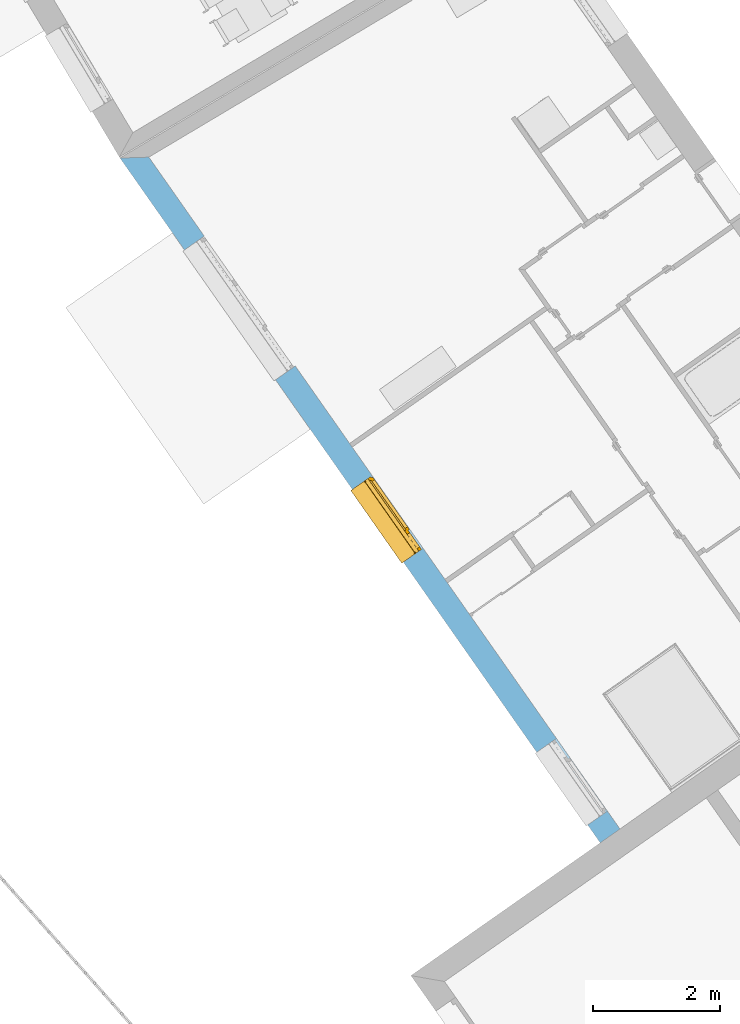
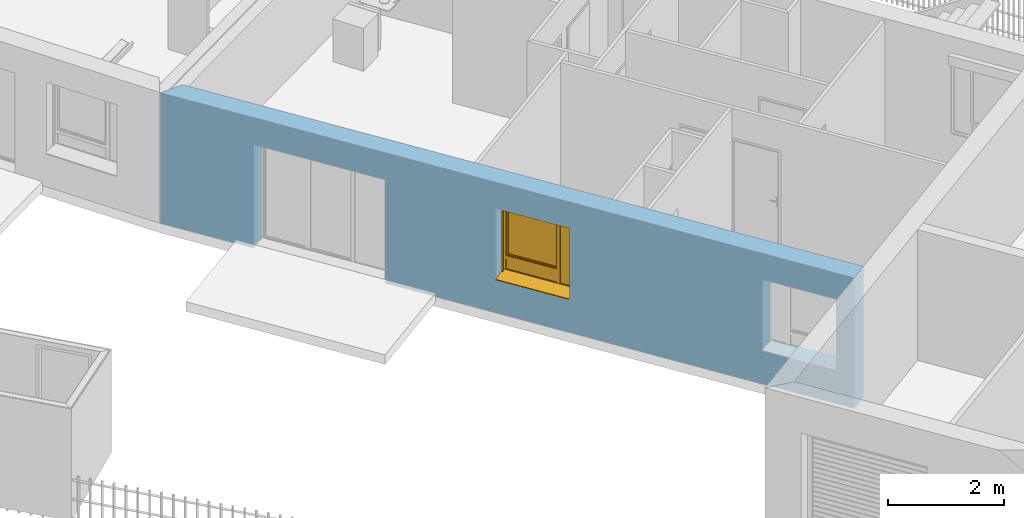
# One storey, part 29 of 195: 1 window, 3 openings, plus 1 element that does not belong to this part.
"""IFC2X3 building model written with IfcOpenShell, lengths in metres."""

from ifc_helpers import new_model, entity, si_unit, converted_unit, derived_unit, money_unit, direction, frame, origin_with_axes, place, context, subcontext, project, spatial, polyline, outline, extrude, open_shell, faceted_brep, surface_model, source, transform, mapped, material, layer, layer_set, layer_usage, type_object, element, fill, save


model = new_model("IFC2X3")

# Units and contexts
model_context = context("Model", 3, precision=1e-05, world=origin_with_axes(), true_north=direction((0.0, 1.0)))
body_context = subcontext(model_context, "Body", "Model", "MODEL_VIEW")
ifc_project = project(units=[si_unit("LENGTHUNIT", "METRE"), si_unit("AREAUNIT", "SQUARE_METRE"), si_unit("VOLUMEUNIT", "CUBIC_METRE"), converted_unit("PLANEANGLEUNIT", "DEGREE", entity("IfcPlaneAngleMeasure", 0.0174532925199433), si_unit("PLANEANGLEUNIT", "RADIAN"), dimensions=[0, 0, 0, 0, 0, 0, 0]), money_unit("CHF"), converted_unit("TIMEUNIT", "Year", entity("IfcTimeMeasure", 31557600.0), si_unit("TIMEUNIT", "SECOND"), dimensions=[0, 0, 1, 0, 0, 0, 0]), si_unit("MASSUNIT", "GRAM", prefix="KILO"), si_unit("THERMODYNAMICTEMPERATUREUNIT", "DEGREE_CELSIUS"), si_unit("LUMINOUSINTENSITYUNIT", "LUMEN"), si_unit("ENERGYUNIT", "JOULE", prefix="MEGA"), derived_unit("THERMALCONDUCTANCEUNIT", [(si_unit("POWERUNIT", "WATT"), 1), (si_unit("LENGTHUNIT", "METRE"), -1), (si_unit("THERMODYNAMICTEMPERATUREUNIT", "KELVIN"), -1)]), derived_unit("SPECIFICHEATCAPACITYUNIT", [(si_unit("ENERGYUNIT", "JOULE"), 1), (si_unit("MASSUNIT", "GRAM", prefix="KILO"), -1), (si_unit("THERMODYNAMICTEMPERATUREUNIT", "KELVIN"), -1)]), derived_unit("MASSDENSITYUNIT", [(si_unit("MASSUNIT", "GRAM", prefix="KILO"), 1), (si_unit("VOLUMEUNIT", "CUBIC_METRE"), -1)])], contexts=[model_context])

# Site, building, storey
site_placement = place(None, origin_with_axes())
site = spatial("IfcSite", under=ifc_project, at=site_placement, Name="Site", CompositionType="ELEMENT")
building_placement = place(site_placement, origin_with_axes())
building = spatial("IfcBuilding", under=site, at=building_placement, Name="Bâtiment", CompositionType="ELEMENT")
storey_placement = place(building_placement, origin_with_axes())
storey = spatial("IfcBuildingStorey", under=building, at=storey_placement, Name="rdc", CompositionType="ELEMENT", Elevation=0.0)

# Wall, openings, window
ifc_material_1 = material(Name="Parpaing 312445824")
ifc_layer_1 = layer(ifc_material_1, 0.22, ventilated="UNKNOWN")
ifc_material_2 = material(Name="Isolant styromousse 301821074")
ifc_layer_2 = layer(ifc_material_2, 0.16, ventilated="UNKNOWN")
ifc_layer_set = layer_set([ifc_layer_1, ifc_layer_2], Name="isol int 22+16 0836643197")
ifc_layer_usage = layer_usage(ifc_layer_set, "AXIS2", "NEGATIVE", 0.0)
wall_type = type_object("IfcWallType", Name="isol int 22+16 0836643197 380", PredefinedType="NOTDEFINED")
wall_placement = place(storey_placement, frame((9550.793347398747, -1066.018324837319, 57.7), z_axis=(0.0, 0.0, 1.0), x_axis=(-0.5741598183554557, 0.8187432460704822, 0.0)))
wall = element("IfcWallStandardCase", 1, at=wall_placement, inside=storey, type_object=wall_type, material=ifc_layer_usage, Name="Mur-113", context=body_context, shape_type="SweptSolid", body=[
    extrude(outline(polyline([(0.0, -0.3799999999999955), (12.93611826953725, -0.3799999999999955), (13.184998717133, 0.0), (0.0, 0.0), (0.0, -0.3799999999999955)])), origin_with_axes(), (0.0, 0.0, 1.0), 2.75),
])
opening_1_placement = place(wall_placement, frame((1.044025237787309, 0.0, 0.7000000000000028), z_axis=(0.0, 0.0, 1.0), x_axis=(1.0, 0.0, 0.0)))
element("IfcOpeningElement", 2, at=opening_1_placement, cuts=wall, Name="Fen-045", context=body_context, shape_type="Brep", body=[
    faceted_brep([(0.7000000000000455, -0.4800000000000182, 1.5), (-0.6999999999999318, -0.4799999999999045, 1.5), (-0.6999999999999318, -6.579129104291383, 1.5), (0.7000000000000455, -6.579129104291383, 1.5), (0.7000000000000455, -0.4800000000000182, 1.700000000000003), (-0.6999999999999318, -0.4799999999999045, 1.700000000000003), (-0.6999999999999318, -0.3000000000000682, 1.5), (-0.6999999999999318, -0.3000000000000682, 0.0), (-0.6999999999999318, -6.579129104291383, 0.0), (0.7000000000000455, -6.579129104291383, 0.0), (0.7000000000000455, -0.3000000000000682, 1.5), (0.7000000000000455, -0.3000000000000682, 0.0), (0.7000000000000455, -0.2200000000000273, 1.5), (0.7000000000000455, -0.2200000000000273, 1.700000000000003), (-0.7000000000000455, -0.2200000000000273, 1.700000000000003), (-0.7000000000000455, -0.2200000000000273, 1.5), (-0.6999999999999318, 6.199129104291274, 1.5), (-0.6999999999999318, 6.199129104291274, 0.0), (0.7000000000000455, 6.199129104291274, 0.0), (0.7000000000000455, 6.199129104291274, 1.5)], [[[0, 1, 2, 3]], [[1, 0, 4, 5]], [[1, 6, 7, 8, 2]], [[2, 8, 9, 3]], [[10, 0, 3, 9, 11]], [[0, 10, 12, 13, 4]], [[4, 13, 14, 5]], [[6, 1, 5, 14, 15]], [[6, 15, 16, 17, 7]], [[7, 11, 9, 8]], [[12, 10, 11, 18, 19]], [[12, 15, 14, 13]], [[15, 12, 19, 16]], [[19, 18, 17, 16]], [[11, 7, 17, 18]]]),
])
opening_2_placement = place(wall_placement, frame((10.16490185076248, 0.0, 0.0), z_axis=(0.0, 0.0, 1.0), x_axis=(1.0, 0.0, 0.0)))
element("IfcOpeningElement", 3, at=opening_2_placement, cuts=wall, Name="Fen-045", context=body_context, shape_type="Brep", body=[
    faceted_brep([(1.25, -0.4799999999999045, 2.18), (-1.25, -0.4800000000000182, 2.18), (-1.25, -6.579129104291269, 2.18), (1.25, -6.579129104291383, 2.18), (1.25, -0.4799999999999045, 2.380000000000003), (-1.25, -0.4800000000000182, 2.380000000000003), (-1.25, -0.3000000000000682, 2.18), (-1.25, -0.3000000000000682, 0.0), (-1.25, -6.579129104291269, 0.0), (1.25, -6.579129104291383, 0.0), (1.25, -0.2999999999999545, 2.18), (1.25, -0.2999999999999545, 0.0), (1.25, -0.2200000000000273, 2.18), (1.25, -0.2200000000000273, 2.380000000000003), (-1.25, -0.2200000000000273, 2.380000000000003), (-1.25, -0.2200000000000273, 2.18), (-1.25, 6.199129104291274, 2.18), (-1.25, 6.199129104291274, 0.0), (1.25, 6.199129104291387, 0.0), (1.25, 6.199129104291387, 2.18)], [[[0, 1, 2, 3]], [[1, 0, 4, 5]], [[1, 6, 7, 8, 2]], [[2, 8, 9, 3]], [[10, 0, 3, 9, 11]], [[0, 10, 12, 13, 4]], [[14, 5, 4, 13]], [[6, 1, 5, 14, 15]], [[6, 15, 16, 17, 7]], [[7, 11, 9, 8]], [[12, 10, 11, 18, 19]], [[12, 15, 14, 13]], [[15, 12, 19, 16]], [[19, 18, 17, 16]], [[11, 7, 17, 18]]]),
])
opening_3_placement = place(wall_placement, frame((6.105388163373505, 0.0, 0.7000000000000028), z_axis=(0.0, 0.0, 1.0), x_axis=(1.0, 0.0, 0.0)))
opening_3 = element("IfcOpeningElement", 4, at=opening_3_placement, cuts=wall, Name="Fen-045", context=body_context, shape_type="Brep", body=[
    faceted_brep([(0.6999999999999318, -0.4799999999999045, 1.5), (-0.7000000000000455, -0.4800000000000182, 1.5), (-0.7000000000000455, -6.579129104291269, 1.5), (0.6999999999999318, -6.579129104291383, 1.5), (0.6999999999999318, -0.4799999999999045, 1.700000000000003), (-0.7000000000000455, -0.4800000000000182, 1.700000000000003), (-0.7000000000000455, -0.2999999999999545, 1.5), (-0.7000000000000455, -0.2999999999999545, 0.0), (-0.7000000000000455, -6.579129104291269, 0.0), (0.6999999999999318, -6.579129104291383, 0.0), (0.6999999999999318, -0.2999999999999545, 1.5), (0.6999999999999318, -0.2999999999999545, 0.0), (0.6999999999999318, -0.2200000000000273, 1.5), (0.6999999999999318, -0.2200000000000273, 1.700000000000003), (-0.7000000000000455, -0.2199999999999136, 1.700000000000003), (-0.7000000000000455, -0.2199999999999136, 1.5), (-0.7000000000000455, 6.199129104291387, 1.5), (-0.7000000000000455, 6.199129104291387, 0.0), (0.6999999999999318, 6.199129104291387, 0.0), (0.6999999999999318, 6.199129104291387, 1.5)], [[[0, 1, 2, 3]], [[1, 0, 4, 5]], [[1, 6, 7, 8, 2]], [[2, 8, 9, 3]], [[10, 0, 3, 9, 11]], [[0, 10, 12, 13, 4]], [[14, 5, 4, 13]], [[6, 1, 5, 14, 15]], [[6, 15, 16, 17, 7]], [[7, 11, 9, 8]], [[12, 10, 11, 18, 19]], [[12, 15, 14, 13]], [[15, 12, 19, 16]], [[19, 18, 17, 16]], [[11, 7, 17, 18]]]),
])
window_style = type_object("IfcWindowStyle", Name="Fenêtre variable 27", ConstructionType="NOTDEFINED", OperationType="TRIPLE_PANEL_RIGHT", ParameterTakesPrecedence=False, Sizeable=False)
shared_shape = source(origin_with_axes(), body_context, "Body", "SurfaceModel", [
    surface_model("IfcShellBasedSurfaceModel", [(-0.7, -0.05100000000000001, 0.05), (-0.7, -0.05100000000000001, 0.04), (0.7, -0.05100000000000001, 0.04000000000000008), (0.7, -0.05100000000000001, 0.05000000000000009), (-0.7, -0.3799999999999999, 0.02899999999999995), (0.7, -0.3799999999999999, 0.02900000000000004), (-0.7, -0.3799999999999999, 0.008999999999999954), (0.7, -0.3799999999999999, 0.00900000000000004), (-0.7, -0.3699999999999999, 0.01899999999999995), (0.7, -0.3699999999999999, 0.01900000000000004)], [open_shell([[[0, 1, 2, 3]], [[1, 4, 5, 2]], [[4, 6, 7, 5]], [[6, 8, 9, 7]]])]),
    faceted_brep([(-0.7, -0.13, 1.7), (-0.697, -0.13, 1.7), (-0.697, 0.13, 1.7), (-0.7, 0.13, 1.7), (-0.7, -0.13, 1.5), (-0.697, -0.13, 1.5), (-0.697, 0.13, 1.5), (-0.7, 0.13, 1.5)], [[[0, 1, 2, 3]], [[4, 5, 1, 0]], [[1, 5, 6, 2]], [[3, 2, 6, 7]], [[0, 3, 7, 4]], [[7, 6, 5, 4]]]),
    faceted_brep([(0.6970000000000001, -0.1299999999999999, 1.7), (0.7000000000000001, -0.1299999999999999, 1.7), (0.7000000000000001, 0.1300000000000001, 1.7), (0.6970000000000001, 0.1300000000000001, 1.7), (0.6970000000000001, -0.1299999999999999, 1.5), (0.7000000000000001, -0.1299999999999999, 1.5), (0.7000000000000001, 0.1300000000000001, 1.5), (0.6970000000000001, 0.1300000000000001, 1.5)], [[[0, 1, 2, 3]], [[4, 5, 1, 0]], [[1, 5, 6, 2]], [[3, 2, 6, 7]], [[0, 3, 7, 4]], [[7, 6, 5, 4]]]),
    faceted_brep([(-0.697, -0.13, 1.5), (0.697, -0.1299999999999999, 1.5), (0.697, -0.1299999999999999, 1.7), (-0.697, -0.13, 1.7), (-0.697, -0.127, 1.5), (0.697, -0.1269999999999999, 1.5), (0.697, -0.1269999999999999, 1.697), (0.697, 0.1270000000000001, 1.697), (0.697, 0.1270000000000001, 1.503), (0.697, -0.1079999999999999, 1.503), (0.697, -0.1079999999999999, 1.5), (0.697, 0.1300000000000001, 1.5), (0.697, 0.1300000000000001, 1.7), (-0.697, 0.13, 1.7), (-0.697, 0.13, 1.5), (-0.697, -0.108, 1.5), (-0.697, -0.108, 1.503), (-0.697, 0.127, 1.503), (-0.697, 0.127, 1.697), (-0.697, -0.127, 1.697)], [[[0, 1, 2, 3]], [[4, 5, 1, 0]], [[1, 5, 6, 7, 8, 9, 10, 11, 12, 2]], [[3, 2, 12, 13]], [[0, 3, 13, 14, 15, 16, 17, 18, 19, 4]], [[19, 6, 5, 4]], [[18, 7, 6, 19]], [[17, 8, 7, 18]], [[16, 9, 8, 17]], [[15, 10, 9, 16]], [[14, 11, 10, 15]], [[13, 12, 11, 14]]]),
    faceted_brep([(-0.694, -0.08075423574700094, 1.585760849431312), (-0.694, -0.08200000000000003, 1.6), (-0.694, -0.0807542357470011, 1.614239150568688), (-0.694, -0.07705479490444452, 1.628045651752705), (-0.694, -0.07101408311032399, 1.641), (-0.694, -0.06281564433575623, 1.652708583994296), (-0.694, -0.05270858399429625, 1.662815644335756), (-0.694, -0.04100000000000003, 1.671014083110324), (-0.694, -0.02804565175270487, 1.677054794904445), (-0.694, -0.01423915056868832, 1.680754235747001), (-0.694, 0.0, 1.682), (-0.694, 0.01423915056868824, 1.680754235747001), (-0.694, 0.02804565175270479, 1.677054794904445), (-0.694, 0.04099999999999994, 1.671014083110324), (-0.694, 0.05270858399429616, 1.662815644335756), (-0.694, 0.06281564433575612, 1.652708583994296), (-0.694, 0.07101408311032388, 1.641), (-0.694, 0.0770547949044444, 1.628045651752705), (-0.694, 0.08075423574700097, 1.614239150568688), (-0.694, 0.0819999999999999, 1.6), (-0.694, 0.08075423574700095, 1.585760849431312), (-0.694, 0.07705479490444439, 1.571954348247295), (-0.694, 0.07101408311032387, 1.559), (-0.694, 0.06281564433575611, 1.547291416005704), (-0.694, 0.05270858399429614, 1.537184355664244), (-0.694, 0.04099999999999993, 1.528985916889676), (-0.694, 0.02804565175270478, 1.522945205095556), (-0.694, 0.01423915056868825, 1.519245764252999), (-0.694, 0.0, 1.518), (-0.694, -0.01423915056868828, 1.519245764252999), (-0.694, -0.02804565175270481, 1.522945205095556), (-0.694, -0.04099999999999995, 1.528985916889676), (-0.694, -0.05270858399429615, 1.537184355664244), (-0.694, -0.06281564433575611, 1.547291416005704), (-0.694, -0.07101408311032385, 1.559), (-0.694, -0.07705479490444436, 1.571954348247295), (0.694, -0.08075423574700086, 1.585760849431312), (0.694, -0.08199999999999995, 1.6), (0.694, -0.08075423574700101, 1.614239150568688), (0.694, -0.07705479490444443, 1.628045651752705), (0.694, -0.07101408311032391, 1.641), (0.694, -0.06281564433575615, 1.652708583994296), (0.694, -0.05270858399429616, 1.662815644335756), (0.694, -0.04099999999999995, 1.671014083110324), (0.694, -0.02804565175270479, 1.677054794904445), (0.694, -0.01423915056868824, 1.680754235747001), (0.694, 0.0, 1.682), (0.694, 0.01423915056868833, 1.680754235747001), (0.694, 0.02804565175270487, 1.677054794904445), (0.694, 0.04100000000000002, 1.671014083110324), (0.694, 0.05270858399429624, 1.662815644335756), (0.694, 0.0628156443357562, 1.652708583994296), (0.694, 0.07101408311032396, 1.641), (0.694, 0.07705479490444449, 1.628045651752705), (0.694, 0.08075423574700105, 1.614239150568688), (0.694, 0.08199999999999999, 1.6), (0.694, 0.08075423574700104, 1.585760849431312), (0.694, 0.07705479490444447, 1.571954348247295), (0.694, 0.07101408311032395, 1.559), (0.694, 0.06281564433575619, 1.547291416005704), (0.694, 0.05270858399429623, 1.537184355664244), (0.694, 0.04100000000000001, 1.528985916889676), (0.694, 0.02804565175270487, 1.522945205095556), (0.694, 0.01423915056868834, 1.519245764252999), (0.694, 0.0, 1.518), (0.694, -0.0142391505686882, 1.519245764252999), (0.694, -0.02804565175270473, 1.522945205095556), (0.694, -0.04099999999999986, 1.528985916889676), (0.694, -0.05270858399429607, 1.537184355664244), (0.694, -0.06281564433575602, 1.547291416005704), (0.694, -0.07101408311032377, 1.559), (0.694, -0.07705479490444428, 1.571954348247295)], [[[0, 1, 2, 3, 4, 5, 6, 7, 8, 9, 10, 11, 12, 13, 14, 15, 16, 17, 18, 19, 20, 21, 22, 23, 24, 25, 26, 27, 28, 29, 30, 31, 32, 33, 34, 35]], [[0, 36, 37, 1]], [[1, 37, 38, 2]], [[2, 38, 39, 3]], [[3, 39, 40, 4]], [[4, 40, 41, 5]], [[5, 41, 42, 6]], [[6, 42, 43, 7]], [[7, 43, 44, 8]], [[8, 44, 45, 9]], [[9, 45, 46, 10]], [[10, 46, 47, 11]], [[11, 47, 48, 12]], [[12, 48, 49, 13]], [[13, 49, 50, 14]], [[14, 50, 51, 15]], [[15, 51, 52, 16]], [[16, 52, 53, 17]], [[17, 53, 54, 18]], [[18, 54, 55, 19]], [[19, 55, 56, 20]], [[20, 56, 57, 21]], [[21, 57, 58, 22]], [[22, 58, 59, 23]], [[23, 59, 60, 24]], [[24, 60, 61, 25]], [[25, 61, 62, 26]], [[26, 62, 63, 27]], [[27, 63, 64, 28]], [[28, 64, 65, 29]], [[29, 65, 66, 30]], [[30, 66, 67, 31]], [[31, 67, 68, 32]], [[32, 68, 69, 33]], [[33, 69, 70, 34]], [[34, 70, 71, 35]], [[35, 71, 36, 0]], [[36, 71, 70, 69, 68, 67, 66, 65, 64, 63, 62, 61, 60, 59, 58, 57, 56, 55, 54, 53, 52, 51, 50, 49, 48, 47, 46, 45, 44, 43, 42, 41, 40, 39, 38, 37]]]),
    faceted_brep([(0.7, -0.105, 0.03), (0.7, -0.1049999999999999, 1.5), (0.7, -0.1299999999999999, 1.5), (0.7, -0.13, 0.03), (0.6749999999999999, -0.105, 0.03), (0.6749999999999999, -0.1049999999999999, 1.5), (0.6749999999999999, -0.1079999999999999, 1.5), (0.697, -0.1079999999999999, 1.5), (0.697, -0.1269999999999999, 1.5), (0.6749999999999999, -0.1269999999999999, 1.5), (0.6749999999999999, -0.1299999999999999, 1.5), (0.6749999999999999, -0.13, 0.03), (0.6749999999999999, -0.127, 0.03), (0.697, -0.127, 0.03), (0.697, -0.108, 0.03), (0.6749999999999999, -0.108, 0.03)], [[[0, 1, 2, 3]], [[4, 5, 1, 0]], [[1, 5, 6, 7, 8, 9, 10, 2]], [[3, 2, 10, 11]], [[0, 3, 11, 12, 13, 14, 15, 4]], [[15, 6, 5, 4]], [[14, 7, 6, 15]], [[13, 8, 7, 14]], [[12, 9, 8, 13]], [[11, 10, 9, 12]]]),
    faceted_brep([(-0.7, -0.105, 0.03), (-0.7, -0.13, 0.03), (-0.7, -0.1299999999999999, 1.5), (-0.7, -0.1049999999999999, 1.5), (-0.6749999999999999, -0.105, 0.03), (-0.6749999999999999, -0.108, 0.03), (-0.697, -0.108, 0.03), (-0.697, -0.127, 0.03), (-0.6749999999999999, -0.127, 0.03), (-0.6749999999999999, -0.13, 0.03), (-0.6749999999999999, -0.1299999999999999, 1.5), (-0.6749999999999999, -0.1269999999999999, 1.5), (-0.697, -0.1269999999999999, 1.5), (-0.697, -0.1079999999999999, 1.5), (-0.6749999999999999, -0.1079999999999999, 1.5), (-0.6749999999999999, -0.1049999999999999, 1.5)], [[[0, 1, 2, 3]], [[0, 4, 5, 6, 7, 8, 9, 1]], [[1, 9, 10, 2]], [[3, 2, 10, 11, 12, 13, 14, 15]], [[4, 0, 3, 15]], [[5, 4, 15, 14]], [[6, 5, 14, 13]], [[7, 6, 13, 12]], [[8, 7, 12, 11]], [[9, 8, 11, 10]]]),
    surface_model("IfcShellBasedSurfaceModel", [(-0.697, -0.115, 1.6), (0.697, -0.1149999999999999, 1.6), (0.697, -0.1199999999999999, 1.6), (-0.697, -0.12, 1.6), (-0.697, -0.115, 1.6), (-0.697, -0.12, 1.6), (0.697, -0.12, 1.6), (0.697, -0.1149999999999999, 1.6)], [open_shell([[[0, 1, 2, 3]], [[4, 5, 6, 7]]])]),
    faceted_brep([(-0.697, -0.115, 1.6), (0.697, -0.1149999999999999, 1.6), (0.697, -0.1166666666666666, 1.583333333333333), (-0.697, -0.1166666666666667, 1.583333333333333), (-0.697, -0.12, 1.6), (0.697, -0.1199999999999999, 1.6), (0.697, -0.1216666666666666, 1.583333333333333), (0.697, -0.1216666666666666, 1.566666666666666), (0.697, -0.1199999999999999, 1.55), (0.697, -0.1149999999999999, 1.55), (0.697, -0.1166666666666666, 1.566666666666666), (-0.697, -0.1166666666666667, 1.566666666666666), (-0.697, -0.115, 1.55), (-0.697, -0.12, 1.55), (-0.697, -0.1216666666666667, 1.566666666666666), (-0.697, -0.1216666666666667, 1.583333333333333)], [[[0, 1, 2, 3]], [[4, 5, 1, 0]], [[1, 5, 6, 7, 8, 9, 10, 2]], [[3, 2, 10, 11]], [[0, 3, 11, 12, 13, 14, 15, 4]], [[15, 6, 5, 4]], [[14, 7, 6, 15]], [[13, 8, 7, 14]], [[12, 9, 8, 13]], [[11, 10, 9, 12]]]),
    faceted_brep([(-0.697, -0.115, 1.55), (0.697, -0.1149999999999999, 1.55), (0.697, -0.1166666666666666, 1.533333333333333), (-0.697, -0.1166666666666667, 1.533333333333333), (-0.697, -0.12, 1.55), (0.697, -0.1199999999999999, 1.55), (0.697, -0.1216666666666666, 1.533333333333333), (0.697, -0.1216666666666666, 1.516666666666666), (0.697, -0.1199999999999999, 1.5), (0.697, -0.1149999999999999, 1.5), (0.697, -0.1166666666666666, 1.516666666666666), (-0.697, -0.1166666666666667, 1.516666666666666), (-0.697, -0.115, 1.5), (-0.697, -0.12, 1.5), (-0.697, -0.1216666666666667, 1.516666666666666), (-0.697, -0.1216666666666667, 1.533333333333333)], [[[0, 1, 2, 3]], [[4, 5, 1, 0]], [[1, 5, 6, 7, 8, 9, 10, 2]], [[3, 2, 10, 11]], [[0, 3, 11, 12, 13, 14, 15, 4]], [[15, 6, 5, 4]], [[14, 7, 6, 15]], [[13, 8, 7, 14]], [[12, 9, 8, 13]], [[11, 10, 9, 12]]]),
    faceted_brep([(-0.6749999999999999, 0.0, 1.45), (-0.7, 0.0, 1.45), (-0.7, -0.05000000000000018, 1.45), (-0.6499999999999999, -0.05000000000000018, 1.45), (-0.6499999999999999, -0.02500000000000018, 1.45), (-0.6749999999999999, -0.02500000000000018, 1.45), (-0.6749999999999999, 0.0, 0.3099999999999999), (-0.6499999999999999, 0.0, 0.3099999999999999), (-0.6499999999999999, 0.0, 0.265), (-0.6499999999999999, 0.0, 0.05000000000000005), (-0.7, 0.0, 0.05000000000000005), (-0.7, -0.05000000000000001, 0.05000000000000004), (-0.6499999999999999, -0.05000000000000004, 0.335), (-0.6499999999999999, -0.05000000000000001, 0.05000000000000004), (-0.6499999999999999, -0.05000000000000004, 0.265), (-0.6499999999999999, -0.02500000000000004, 0.335), (-0.6499999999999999, -0.02500000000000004, 0.3099999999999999), (-0.6749999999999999, -0.02500000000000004, 0.3099999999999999)], [[[0, 1, 2, 3, 4, 5]], [[6, 7, 8, 9, 10, 1, 0]], [[1, 10, 11, 2]], [[12, 3, 2, 11, 13, 14]], [[4, 3, 12, 15]], [[15, 16, 17, 5, 4]], [[5, 17, 6, 0]], [[6, 17, 16, 7]], [[16, 15, 12, 14, 8, 7]], [[9, 8, 14, 13]], [[10, 9, 13, 11]]]),
    faceted_brep([(0.3068894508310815, -0.02500000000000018, 1.45), (0.3068894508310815, -0.05000000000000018, 1.45), (0.3768894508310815, -0.05000000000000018, 1.45), (0.3768894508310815, 0.0, 1.45), (0.3318894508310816, 0.0, 1.45), (0.3318894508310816, -0.02500000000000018, 1.45), (0.3068894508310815, -0.02500000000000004, 0.335), (0.3068894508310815, -0.05000000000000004, 0.335), (0.3068894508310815, -0.05000000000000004, 0.265), (0.3068894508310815, -0.05000000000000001, 0.05000000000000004), (0.3768894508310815, -0.05000000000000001, 0.05000000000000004), (0.3768894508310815, 0.0, 0.05000000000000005), (0.3318894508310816, 0.0, 0.3099999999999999), (0.3068894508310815, 0.0, 0.05000000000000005), (0.3068894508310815, 0.0, 0.265), (0.3068894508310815, 0.0, 0.3099999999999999), (0.3318894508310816, -0.02500000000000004, 0.3099999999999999), (0.3068894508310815, -0.02500000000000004, 0.3099999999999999)], [[[0, 1, 2, 3, 4, 5]], [[6, 7, 1, 0]], [[8, 9, 10, 2, 1, 7]], [[11, 3, 2, 10]], [[12, 4, 3, 11, 13, 14, 15]], [[12, 16, 5, 4]], [[5, 16, 17, 6, 0]], [[17, 15, 14, 8, 7, 6]], [[14, 13, 9, 8]], [[13, 11, 10, 9]], [[15, 17, 16, 12]]]),
    faceted_brep([(-0.6499999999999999, -0.02500000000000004, 0.335), (-0.6499999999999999, -0.05000000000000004, 0.335), (0.3068894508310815, -0.05000000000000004, 0.335), (0.3068894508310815, -0.02500000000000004, 0.335), (-0.6499999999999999, -0.02500000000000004, 0.3099999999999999), (-0.6499999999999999, 0.0, 0.3099999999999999), (-0.6499999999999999, 0.0, 0.265), (-0.6499999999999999, -0.05000000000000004, 0.265), (0.3068894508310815, -0.05000000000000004, 0.265), (0.3068894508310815, -0.02500000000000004, 0.3099999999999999), (0.3068894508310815, 0.0, 0.265), (0.3068894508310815, 0.0, 0.3099999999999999)], [[[0, 1, 2, 3]], [[4, 5, 6, 7, 1, 0]], [[2, 1, 7, 8]], [[9, 3, 2, 8, 10, 11]], [[9, 4, 0, 3]], [[5, 4, 9, 11]], [[11, 10, 6, 5]], [[6, 10, 8, 7]]]),
    faceted_brep([(-0.6749999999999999, 0.0, 1.45), (-0.7, 0.0, 1.45), (-0.7, 0.0, 1.5), (0.7, 0.0, 1.5), (0.7, 0.0, 1.45), (0.6499999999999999, 0.0, 1.45), (0.3768894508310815, 0.0, 1.45), (0.3318894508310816, 0.0, 1.45), (0.3318894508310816, 0.0, 1.475), (-0.6749999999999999, 0.0, 1.475), (-0.6749999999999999, -0.02500000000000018, 1.45), (-0.6499999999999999, -0.02500000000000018, 1.45), (-0.6499999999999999, -0.05000000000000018, 1.45), (-0.7, -0.05000000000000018, 1.45), (-0.7, -0.05000000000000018, 1.5), (0.7, -0.05000000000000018, 1.5), (0.7, -0.05000000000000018, 1.45), (0.6499999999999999, -0.05000000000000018, 1.45), (0.3768894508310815, -0.05000000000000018, 1.45), (0.3318894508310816, -0.02500000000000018, 1.45), (0.3068894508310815, -0.05000000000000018, 1.45), (0.3068894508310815, -0.02500000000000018, 1.45), (0.3318894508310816, -0.02500000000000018, 1.475), (-0.6749999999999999, -0.02500000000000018, 1.475)], [[[0, 1, 2, 3, 4, 5, 6, 7, 8, 9]], [[10, 11, 12, 13, 1, 0]], [[2, 1, 13, 14]], [[3, 2, 14, 15]], [[4, 3, 15, 16]], [[5, 4, 16, 17]], [[6, 5, 17, 18]], [[19, 7, 6, 18, 20, 21]], [[7, 19, 22, 8]], [[8, 22, 23, 9]], [[9, 23, 10, 0]], [[21, 11, 10, 23, 22, 19]], [[21, 20, 12, 11]], [[18, 17, 16, 15, 14, 13, 12, 20]]]),
    faceted_brep([(0.6499999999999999, -0.05000000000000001, 0.05), (0.6499999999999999, 0.0, 0.05000000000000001), (0.7, 0.0, 0.05000000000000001), (0.7, -0.05000000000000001, 0.05), (0.6499999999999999, -0.05000000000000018, 1.45), (0.6499999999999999, 0.0, 1.45), (0.7, 0.0, 1.45), (0.7, -0.05000000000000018, 1.45)], [[[0, 1, 2, 3]], [[4, 5, 1, 0]], [[1, 5, 6, 2]], [[3, 2, 6, 7]], [[0, 3, 7, 4]], [[7, 6, 5, 4]]]),
    faceted_brep([(-0.6499999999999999, -0.05000000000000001, 0.05), (-0.6499999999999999, 0.0, 0.05000000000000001), (-0.7, 0.0, 0.05000000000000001), (-0.7, -0.05000000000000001, 0.05), (0.3068894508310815, -0.05000000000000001, 0.05), (0.3068894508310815, 0.0, 0.05000000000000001), (0.3768894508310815, 0.0, 0.05000000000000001), (0.6499999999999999, 0.0, 0.05000000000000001), (0.7, 0.0, 0.05000000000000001), (0.7, 0.0, 0.0), (-0.7, 0.0, 0.0), (-0.7, -0.05, 0.0), (0.7, -0.05, 0.0), (0.7, -0.05000000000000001, 0.05), (0.6499999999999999, -0.05000000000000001, 0.05), (0.3768894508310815, -0.05000000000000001, 0.05)], [[[0, 1, 2, 3]], [[4, 5, 1, 0]], [[1, 5, 6, 7, 8, 9, 10, 2]], [[3, 2, 10, 11]], [[0, 3, 11, 12, 13, 14, 15, 4]], [[15, 6, 5, 4]], [[14, 7, 6, 15]], [[13, 8, 7, 14]], [[12, 9, 8, 13]], [[11, 10, 9, 12]]]),
    faceted_brep([(-0.625, -0.02500000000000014, 1.425), (-0.625, 0.02499999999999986, 1.425), (-0.6749999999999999, 0.02499999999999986, 1.425), (-0.6749999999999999, -0.02500000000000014, 1.425), (-0.625, -0.02500000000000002, 0.3599999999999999), (-0.625, 0.02499999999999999, 0.3599999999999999), (-0.6749999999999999, 0.02499999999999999, 0.3599999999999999), (-0.6749999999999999, -0.02500000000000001, 0.3599999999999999)], [[[0, 1, 2, 3]], [[4, 5, 1, 0]], [[1, 5, 6, 2]], [[3, 2, 6, 7]], [[0, 3, 7, 4]], [[7, 6, 5, 4]]]),
    faceted_brep([(0.2818894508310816, -0.02500000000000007, 0.3599999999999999), (0.2818894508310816, 0.02499999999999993, 0.3599999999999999), (0.3318894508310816, 0.02499999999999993, 0.3599999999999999), (0.3318894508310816, -0.02500000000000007, 0.3599999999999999), (0.2818894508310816, -0.0250000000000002, 1.425), (0.2818894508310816, 0.0249999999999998, 1.425), (0.3318894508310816, 0.0249999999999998, 1.425), (0.3318894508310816, -0.0250000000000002, 1.425)], [[[0, 1, 2, 3]], [[4, 5, 1, 0]], [[1, 5, 6, 2]], [[3, 2, 6, 7]], [[0, 3, 7, 4]], [[7, 6, 5, 4]]]),
    faceted_brep([(0.3318894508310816, -0.02500000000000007, 0.3099999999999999), (0.3318894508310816, 0.02499999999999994, 0.3099999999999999), (0.3318894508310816, 0.02499999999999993, 0.3599999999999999), (0.3318894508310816, -0.02500000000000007, 0.3599999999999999), (-0.6749999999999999, -0.025, 0.3099999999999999), (-0.6749999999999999, 0.02499999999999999, 0.3099999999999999), (-0.6749999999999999, 0.02499999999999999, 0.3599999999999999), (-0.625, 0.02499999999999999, 0.3599999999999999), (0.2818894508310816, 0.02499999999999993, 0.3599999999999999), (0.2818894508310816, -0.02500000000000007, 0.3599999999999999), (-0.625, -0.02500000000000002, 0.3599999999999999), (-0.6749999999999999, -0.02500000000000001, 0.3599999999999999)], [[[0, 1, 2, 3]], [[4, 5, 1, 0]], [[1, 5, 6, 7, 8, 2]], [[3, 2, 8, 9]], [[0, 3, 9, 10, 11, 4]], [[11, 6, 5, 4]], [[10, 7, 6, 11]], [[9, 8, 7, 10]]]),
    faceted_brep([(-0.6749999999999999, -0.02500000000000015, 1.475), (-0.6749999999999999, 0.02499999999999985, 1.475), (-0.6749999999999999, 0.02499999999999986, 1.425), (-0.6749999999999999, -0.02500000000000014, 1.425), (0.3318894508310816, -0.02500000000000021, 1.475), (0.3318894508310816, 0.02499999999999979, 1.475), (0.3318894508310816, 0.0249999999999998, 1.425), (0.2818894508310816, 0.0249999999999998, 1.425), (-0.625, 0.02499999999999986, 1.425), (-0.625, -0.02500000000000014, 1.425), (0.2818894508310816, -0.0250000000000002, 1.425), (0.3318894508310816, -0.0250000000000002, 1.425)], [[[0, 1, 2, 3]], [[4, 5, 1, 0]], [[1, 5, 6, 7, 8, 2]], [[3, 2, 8, 9]], [[0, 3, 9, 10, 11, 4]], [[11, 6, 5, 4]], [[10, 7, 6, 11]], [[9, 8, 7, 10]]]),
    surface_model("IfcShellBasedSurfaceModel", [(-0.625, -0.01000000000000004, 0.3599999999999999), (0.2818894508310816, -0.01000000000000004, 0.3599999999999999), (0.2818894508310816, -0.01000000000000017, 1.425), (-0.625, -0.01000000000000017, 1.425)], [open_shell([[[0, 1, 2, 3]]])]),
    surface_model("IfcShellBasedSurfaceModel", [(-0.625, 0.009999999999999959, 0.3599999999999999), (-0.625, 0.00999999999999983, 1.425), (0.2818894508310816, 0.00999999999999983, 1.425), (0.2818894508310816, 0.009999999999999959, 0.3599999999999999)], [open_shell([[[0, 1, 2, 3]]])]),
    surface_model("IfcShellBasedSurfaceModel", [(0.3768894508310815, -0.035, 0.05), (0.65, -0.035, 0.05), (0.65, -0.03500000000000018, 1.45), (0.3768894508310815, -0.03500000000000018, 1.45)], [open_shell([[[0, 1, 2, 3]]])]),
    surface_model("IfcShellBasedSurfaceModel", [(0.3768894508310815, -0.015, 0.05), (0.3768894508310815, -0.01500000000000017, 1.45), (0.65, -0.01500000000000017, 1.45), (0.65, -0.015, 0.05)], [open_shell([[[0, 1, 2, 3]]])]),
    surface_model("IfcShellBasedSurfaceModel", [(-0.6499999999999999, -0.035, 0.05), (0.3068894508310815, -0.035, 0.05), (0.3068894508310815, -0.03500000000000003, 0.265), (-0.6499999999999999, -0.03500000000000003, 0.265)], [open_shell([[[0, 1, 2, 3]]])]),
    surface_model("IfcShellBasedSurfaceModel", [(-0.6499999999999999, -0.015, 0.05), (-0.6499999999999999, -0.01500000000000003, 0.265), (0.3068894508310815, -0.01500000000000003, 0.265), (0.3068894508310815, -0.015, 0.05)], [open_shell([[[0, 1, 2, 3]]])]),
])
window_placement = place(opening_3_placement, frame((0.699999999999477, 0.0, 0.0), z_axis=(0.0, 0.0, 1.0), x_axis=(-1.0, 0.0, 0.0)))
window = element("IfcWindow", 5, at=window_placement, inside=storey, type_object=window_style, Name="Fen-045", OverallHeight=1.5, OverallWidth=1.4, context=body_context, shape_type="MappedRepresentation", body=[
    mapped(shared_shape, transform((0.7000000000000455, 0.3500000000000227, 0.0))),
])
fill(opening_3, window)

save(model, "model.ifc")
